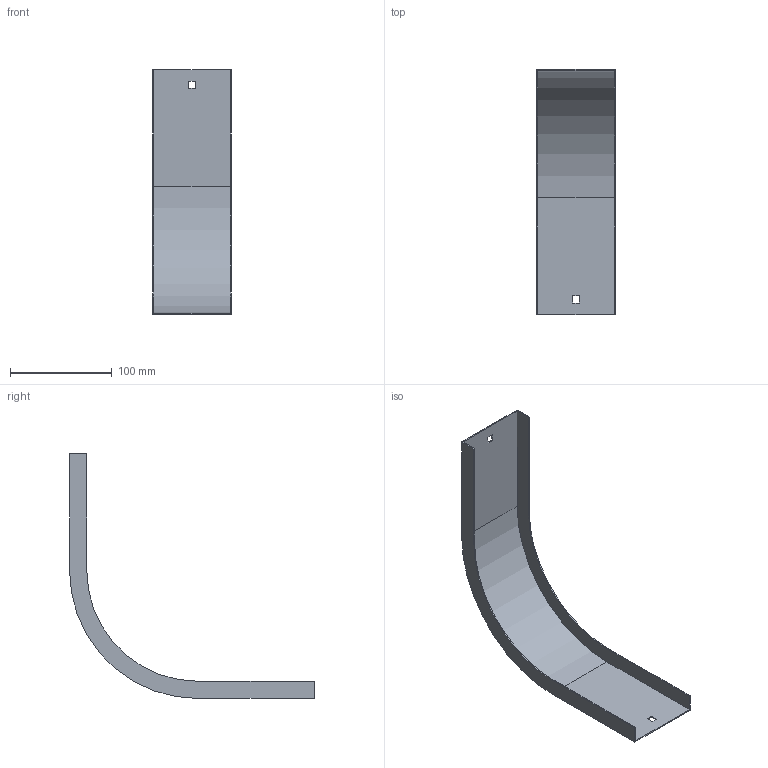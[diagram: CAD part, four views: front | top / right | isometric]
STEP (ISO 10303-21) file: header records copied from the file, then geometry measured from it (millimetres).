
FILE_DESCRIPTION (( 'STEP AP214' ), '1' );
FILE_NAME ('OD9_077.step', '2025-07-16T09:12:34', ( '' ), ( '' ), 'SwSTEP 2.0', 'SolidWorks 2023', '' );
FILE_SCHEMA (( 'AUTOMOTIVE_DESIGN' ));
Length unit declared in the file: millimetre
Products named in the file (1): OD9_077
Bounding box: 77 x 241 x 241 mm (x, y, z)
Volume: 46046.5 mm3; surface area: 93166.9 mm2
Topology: 1 solids, 1 shells, 26 faces, 72 edges, 48 vertices
Faces by surface type: plane 22, cylinder 4
Entity records: 855 total; most frequent: CARTESIAN_POINT 147, ORIENTED_EDGE 144, DIRECTION 134, EDGE_CURVE 72, LINE 64, VECTOR 64, VERTEX_POINT 48, AXIS2_PLACEMENT_3D 35
